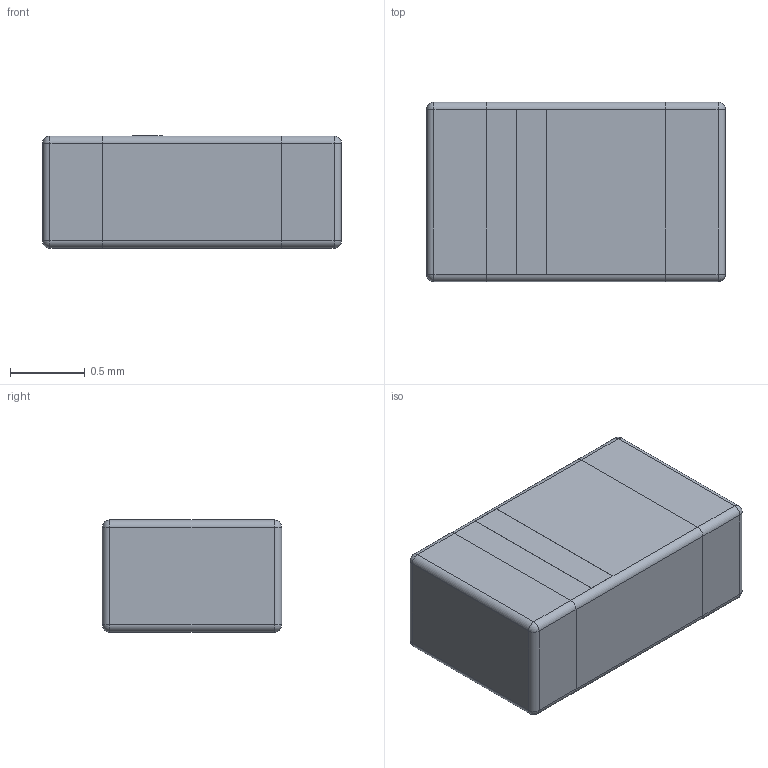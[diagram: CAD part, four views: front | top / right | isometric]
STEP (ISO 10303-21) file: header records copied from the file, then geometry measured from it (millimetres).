
FILE_DESCRIPTION (( 'STEP AP214' ), '1' );
FILE_NAME ( 'ANTC200X120X75L40.STEP', '2021-10-06T06:48:59', ( '' ), ( '' ), '', '©2017 PCB Libraries, Inc.', '' );
FILE_SCHEMA (( 'AUTOMOTIVE_DESIGN' ));
Length unit declared in the file: millimetre
Products named in the file (1): ANTC200X120X75L40
Bounding box: 2 x 1.2 x 0.75 mm (x, y, z)
Volume: 1.8 mm3; surface area: 13.3 mm2
Topology: 4 solids, 4 shells, 52 faces, 116 edges, 64 vertices
Faces by surface type: plane 24, cylinder 20, sphere 8
Entity records: 1572 total; most frequent: DIRECTION 254, CARTESIAN_POINT 225, ORIENTED_EDGE 216, EDGE_CURVE 108, AXIS2_PLACEMENT_3D 93, VECTOR 68, LINE 68, VERTEX_POINT 64
